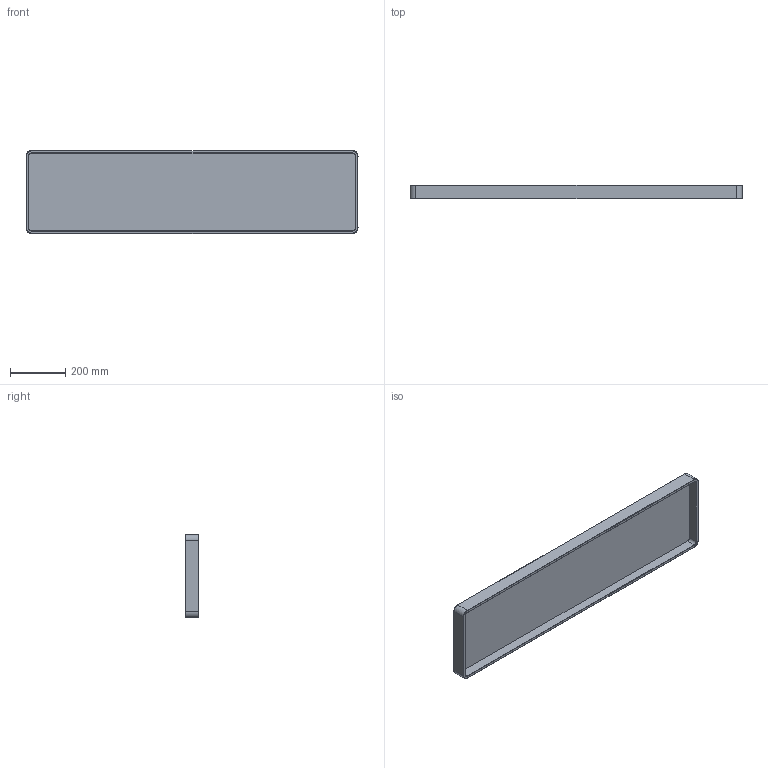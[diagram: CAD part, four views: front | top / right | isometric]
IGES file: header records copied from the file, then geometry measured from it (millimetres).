
Start section: SolidWorks IGES file using analytic representation for surfaces
Global section: file name: D:\3DS EMPRESA\TURIN-P37612-3D\TURIN-P37612-3D.IGS; native system: SolidWorks 2019; preprocessor: SolidWorks 2019; author: Carlos Corella; date: 210715.082652; units: millimetre
Bounding box: 1200 x 50 x 300 mm (x, y, z)
Surface area: 978672.2 mm2 (no closed solid volume)
Topology: 0 solids, 0 shells, 60 faces, 440 edges, 440 vertices
Faces by surface type: bspline 32, revolution 28
